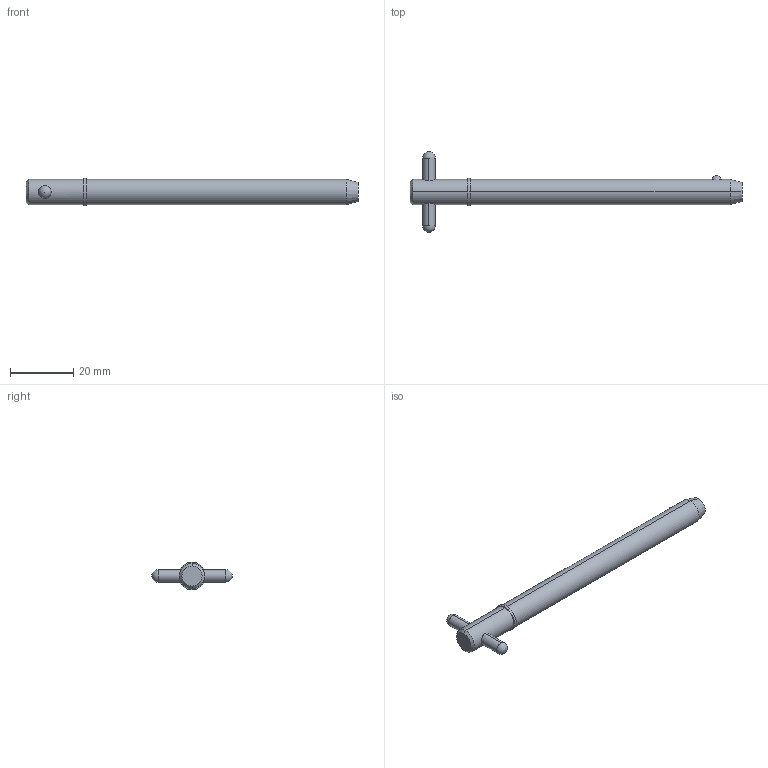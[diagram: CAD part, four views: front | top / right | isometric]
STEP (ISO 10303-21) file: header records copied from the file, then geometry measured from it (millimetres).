
FILE_DESCRIPTION (( 'STEP AP203' ), '1' );
FILE_NAME ('33018.W3130.step', '2024-11-19T17:09:48', ( '' ), ( '' ), 'SwSTEP 2.0', 'SolidWorks 2019', '' );
FILE_SCHEMA (( 'CONFIG_CONTROL_DESIGN' ));
Length unit declared in the file: millimetre
Products named in the file (3): Part1_33018.W3130; Part2_33018.W3130; 33018.W3130
Assembly tree (2 placements, depth 2):
  33018.W3130
    Part1_33018.W3130
    Part2_33018.W3130
Bounding box: 104.78 x 25.4 x 8.73 mm (x, y, z)
Volume: 5354.3 mm3; surface area: 3080.7 mm2
Topology: 2 solids, 2 shells, 22 faces, 47 edges, 30 vertices
Faces by surface type: cylinder 10, sphere 4, cone 4, plane 4
Entity records: 1013 total; most frequent: CARTESIAN_POINT 256, DIRECTION 110, ORIENTED_EDGE 82, AXIS2_PLACEMENT_3D 48, EDGE_CURVE 41, EDGE_LOOP 27, PERSON_AND_ORGANIZATION 26, VERTEX_POINT 26
